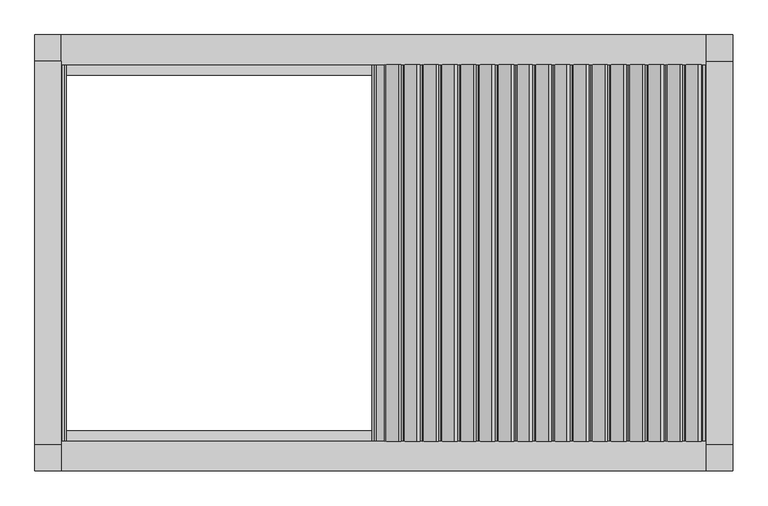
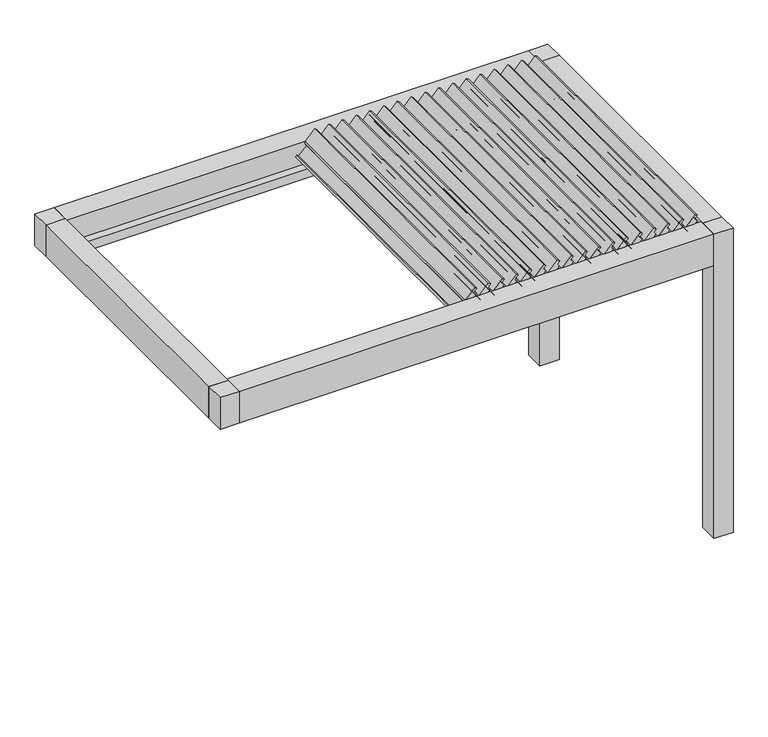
"""IFC4 building model written with IfcOpenShell, lengths in millimetres: proxy geometry, Renson_Camargue_Skye_Facade-Mounted_Patio covers : Renson_Camargue_Skye_Facade-Mounted_Patio covers."""

from ifc_helpers import new_model, si_unit, point, frame, frame_2d, origin, origin_with_axes, place, context, project, spatial, polyline, circle_curve, trimmed, segment, composite_curve, outline, extrude, source, transform, mapped, element, save


def generic_models_a303e51f(model_context):
    return source(origin(), model_context, "Body", "SweptSolid", [
        extrude(outline(composite_curve([segment(polyline([(2532.0835122, 1710.9276745), (2553.3547618, 1693.0789769), (2574.7237457, 1712.4891952), (2586.077577, 1696.2742437), (2504.561844, 1622.2305651)]), True, "CONTINUOUS"), segment(trimmed(circle_curve(frame_2d((2494.4763419, 1633.333837)), 15.0), [point((2504.561844, 1622.2305651))], [point((2485.8726953, 1621.0465563))], False, "CARTESIAN"), True, "CONTINUOUS"), segment(polyline([(2485.8726953, 1621.0465563), (2469.8777579, 1632.2463321), (2407.8391957, 1570.2077699), (2417.7863257, 1556.0017959), (2406.4649975, 1545.7182254), (2384.9376513, 1563.7818136), (2532.0835122, 1710.9276745)]), True, "CONTINUOUS")], self_intersect=False)), frame((0.0, -1080.0, 0.0), z_axis=(0.0, 1.0, 0.0), x_axis=(0.0, 0.0, 1.0)), (0.0, 0.0, 1.0), 2160.0),
        extrude(outline(composite_curve([segment(polyline([(2532.0835122, 1603.4168697), (2553.3547618, 1585.5681721), (2574.7237457, 1604.9783904), (2586.077577, 1588.7634389), (2504.561844, 1514.7197603)]), True, "CONTINUOUS"), segment(trimmed(circle_curve(frame_2d((2494.4763419, 1525.8230322)), 15.0), [point((2504.561844, 1514.7197603))], [point((2485.8726953, 1513.5357516))], False, "CARTESIAN"), True, "CONTINUOUS"), segment(polyline([(2485.8726953, 1513.5357516), (2469.8777579, 1524.7355273), (2407.8391957, 1462.6969652), (2417.7863257, 1448.4909912), (2406.4649975, 1438.2074206), (2384.9376513, 1456.2710088), (2532.0835122, 1603.4168697)]), True, "CONTINUOUS")], self_intersect=False)), frame((0.0, -1080.0, 0.0), z_axis=(0.0, 1.0, 0.0), x_axis=(0.0, 0.0, 1.0)), (0.0, 0.0, 1.0), 2160.0),
        extrude(outline(composite_curve([segment(polyline([(2532.0835122, 1495.906065), (2553.3547618, 1478.0573673), (2574.7237457, 1497.4675857), (2586.077577, 1481.2526342), (2504.561844, 1407.2089555)]), True, "CONTINUOUS"), segment(trimmed(circle_curve(frame_2d((2494.4763419, 1418.3122274)), 15.0), [point((2504.561844, 1407.2089555))], [point((2485.8726953, 1406.0249468))], False, "CARTESIAN"), True, "CONTINUOUS"), segment(polyline([(2485.8726953, 1406.0249468), (2469.8777579, 1417.2247226), (2407.8391957, 1355.1861604), (2417.7863257, 1340.9801864), (2406.4649975, 1330.6966158), (2384.9376513, 1348.760204), (2532.0835122, 1495.906065)]), True, "CONTINUOUS")], self_intersect=False)), frame((0.0, -1080.0, 0.0), z_axis=(0.0, 1.0, 0.0), x_axis=(0.0, 0.0, 1.0)), (0.0, 0.0, 1.0), 2160.0),
        extrude(outline(composite_curve([segment(polyline([(2532.0835122, 1388.3952602), (2553.3547618, 1370.5465625), (2574.7237457, 1389.9567809), (2586.077577, 1373.7418294), (2504.561844, 1299.6981507)]), True, "CONTINUOUS"), segment(trimmed(circle_curve(frame_2d((2494.4763419, 1310.8014227)), 15.0), [point((2504.561844, 1299.6981507))], [point((2485.8726953, 1298.514142))], False, "CARTESIAN"), True, "CONTINUOUS"), segment(polyline([(2485.8726953, 1298.514142), (2469.8777579, 1309.7139178), (2407.8391957, 1247.6753556), (2417.7863257, 1233.4693816), (2406.4649975, 1223.185811), (2384.9376513, 1241.2493993), (2532.0835122, 1388.3952602)]), True, "CONTINUOUS")], self_intersect=False)), frame((0.0, -1080.0, 0.0), z_axis=(0.0, 1.0, 0.0), x_axis=(0.0, 0.0, 1.0)), (0.0, 0.0, 1.0), 2160.0),
        extrude(outline(composite_curve([segment(polyline([(2532.0835122, 1280.8844554), (2553.3547618, 1263.0357577), (2574.7237457, 1282.4459761), (2586.077577, 1266.2310246), (2504.561844, 1192.187346)]), True, "CONTINUOUS"), segment(trimmed(circle_curve(frame_2d((2494.4763419, 1203.2906179)), 15.0), [point((2504.561844, 1192.187346))], [point((2485.8726953, 1191.0033372))], False, "CARTESIAN"), True, "CONTINUOUS"), segment(polyline([(2485.8726953, 1191.0033372), (2469.8777579, 1202.203113), (2407.8391957, 1140.1645508), (2417.7863257, 1125.9585768), (2406.4649975, 1115.6750063), (2384.9376513, 1133.7385945), (2532.0835122, 1280.8844554)]), True, "CONTINUOUS")], self_intersect=False)), frame((0.0, -1080.0, 0.0), z_axis=(0.0, 1.0, 0.0), x_axis=(0.0, 0.0, 1.0)), (0.0, 0.0, 1.0), 2160.0),
        extrude(outline(composite_curve([segment(polyline([(2532.0835122, 1173.3736506), (2553.3547618, 1155.5249529), (2574.7237457, 1174.9351713), (2586.077577, 1158.7202198), (2504.561844, 1084.6765412)]), True, "CONTINUOUS"), segment(trimmed(circle_curve(frame_2d((2494.4763419, 1095.7798131)), 15.0), [point((2504.561844, 1084.6765412))], [point((2485.8726953, 1083.4925324))], False, "CARTESIAN"), True, "CONTINUOUS"), segment(polyline([(2485.8726953, 1083.4925324), (2469.8777579, 1094.6923082), (2407.8391957, 1032.653746), (2417.7863257, 1018.447772), (2406.4649975, 1008.1642015), (2384.9376513, 1026.2277897), (2532.0835122, 1173.3736506)]), True, "CONTINUOUS")], self_intersect=False)), frame((0.0, -1080.0, 0.0), z_axis=(0.0, 1.0, 0.0), x_axis=(0.0, 0.0, 1.0)), (0.0, 0.0, 1.0), 2160.0),
        extrude(outline(composite_curve([segment(polyline([(2532.0835122, 1065.8628458), (2553.3547618, 1048.0141482), (2574.7237457, 1067.4243665), (2586.077577, 1051.209415), (2504.561844, 977.1657364)]), True, "CONTINUOUS"), segment(trimmed(circle_curve(frame_2d((2494.4763419, 988.2690083)), 15.0), [point((2504.561844, 977.1657364))], [point((2485.8726953, 975.9817276))], False, "CARTESIAN"), True, "CONTINUOUS"), segment(polyline([(2485.8726953, 975.9817276), (2469.8777579, 987.1815034), (2407.8391957, 925.1429413), (2417.7863257, 910.9369673), (2406.4649975, 900.6533967), (2384.9376513, 918.7169849), (2532.0835122, 1065.8628458)]), True, "CONTINUOUS")], self_intersect=False)), frame((0.0, -1080.0, 0.0), z_axis=(0.0, 1.0, 0.0), x_axis=(0.0, 0.0, 1.0)), (0.0, 0.0, 1.0), 2160.0),
        extrude(outline(composite_curve([segment(polyline([(2532.0835122, 958.3520411), (2553.3547618, 940.5033434), (2574.7237457, 959.9135617), (2586.077577, 943.6986103), (2504.561844, 869.6549316)]), True, "CONTINUOUS"), segment(trimmed(circle_curve(frame_2d((2494.4763419, 880.7582035)), 15.0), [point((2504.561844, 869.6549316))], [point((2485.8726953, 868.4709229))], False, "CARTESIAN"), True, "CONTINUOUS"), segment(polyline([(2485.8726953, 868.4709229), (2469.8777579, 879.6706987), (2407.8391957, 817.6321365), (2417.7863257, 803.4261625), (2406.4649975, 793.1425919), (2384.9376513, 811.2061801), (2532.0835122, 958.3520411)]), True, "CONTINUOUS")], self_intersect=False)), frame((0.0, -1080.0, 0.0), z_axis=(0.0, 1.0, 0.0), x_axis=(0.0, 0.0, 1.0)), (0.0, 0.0, 1.0), 2160.0),
        extrude(outline(composite_curve([segment(polyline([(2532.0835122, 850.8412363), (2553.3547618, 832.9925386), (2574.7237457, 852.402757), (2586.077577, 836.1878055), (2504.561844, 762.1441268)]), True, "CONTINUOUS"), segment(trimmed(circle_curve(frame_2d((2494.4763419, 773.2473987)), 15.0), [point((2504.561844, 762.1441268))], [point((2485.8726953, 760.9601181))], False, "CARTESIAN"), True, "CONTINUOUS"), segment(polyline([(2485.8726953, 760.9601181), (2469.8777579, 772.1598939), (2407.8391957, 710.1213317), (2417.7863257, 695.9153577), (2406.4649975, 685.6317871), (2384.9376513, 703.6953753), (2532.0835122, 850.8412363)]), True, "CONTINUOUS")], self_intersect=False)), frame((0.0, -1080.0, 0.0), z_axis=(0.0, 1.0, 0.0), x_axis=(0.0, 0.0, 1.0)), (0.0, 0.0, 1.0), 2160.0),
        extrude(outline(composite_curve([segment(polyline([(2532.0835122, 743.3304315), (2553.3547618, 725.4817338), (2574.7237457, 744.8919522), (2586.077577, 728.6770007), (2504.561844, 654.6333221)]), True, "CONTINUOUS"), segment(trimmed(circle_curve(frame_2d((2494.4763419, 665.736594)), 15.0), [point((2504.561844, 654.6333221))], [point((2485.8726953, 653.4493133))], False, "CARTESIAN"), True, "CONTINUOUS"), segment(polyline([(2485.8726953, 653.4493133), (2469.8777579, 664.6490891), (2407.8391957, 602.6105269), (2417.7863257, 588.4045529), (2406.4649975, 578.1209823), (2384.9376513, 596.1845706), (2532.0835122, 743.3304315)]), True, "CONTINUOUS")], self_intersect=False)), frame((0.0, -1080.0, 0.0), z_axis=(0.0, 1.0, 0.0), x_axis=(0.0, 0.0, 1.0)), (0.0, 0.0, 1.0), 2160.0),
        extrude(outline(composite_curve([segment(polyline([(2532.0835122, 635.8196267), (2553.3547618, 617.970929), (2574.7237457, 637.3811474), (2586.077577, 621.1661959), (2504.561844, 547.1225173)]), True, "CONTINUOUS"), segment(trimmed(circle_curve(frame_2d((2494.4763419, 558.2257892)), 15.0), [point((2504.561844, 547.1225173))], [point((2485.8726953, 545.9385085))], False, "CARTESIAN"), True, "CONTINUOUS"), segment(polyline([(2485.8726953, 545.9385085), (2469.8777579, 557.1382843), (2407.8391957, 495.0997221), (2417.7863257, 480.8937481), (2406.4649975, 470.6101776), (2384.9376513, 488.6737658), (2532.0835122, 635.8196267)]), True, "CONTINUOUS")], self_intersect=False)), frame((0.0, -1080.0, 0.0), z_axis=(0.0, 1.0, 0.0), x_axis=(0.0, 0.0, 1.0)), (0.0, 0.0, 1.0), 2160.0),
        extrude(outline(composite_curve([segment(polyline([(2532.0835122, 528.3088219), (2553.3547618, 510.4601243), (2574.7237457, 529.8703426), (2586.077577, 513.6553911), (2504.561844, 439.6117125)]), True, "CONTINUOUS"), segment(trimmed(circle_curve(frame_2d((2494.4763419, 450.7149844)), 15.0), [point((2504.561844, 439.6117125))], [point((2485.8726953, 438.4277037))], False, "CARTESIAN"), True, "CONTINUOUS"), segment(polyline([(2485.8726953, 438.4277037), (2469.8777579, 449.6274795), (2407.8391957, 387.5889173), (2417.7863257, 373.3829433), (2406.4649975, 363.0993728), (2384.9376513, 381.162961), (2532.0835122, 528.3088219)]), True, "CONTINUOUS")], self_intersect=False)), frame((0.0, -1080.0, 0.0), z_axis=(0.0, 1.0, 0.0), x_axis=(0.0, 0.0, 1.0)), (0.0, 0.0, 1.0), 2160.0),
        extrude(outline(composite_curve([segment(polyline([(2532.0835122, 420.7980171), (2553.3547618, 402.9493195), (2574.7237457, 422.3595378), (2586.077577, 406.1445863), (2504.561844, 332.1009077)]), True, "CONTINUOUS"), segment(trimmed(circle_curve(frame_2d((2494.4763419, 343.2041796)), 15.0), [point((2504.561844, 332.1009077))], [point((2485.8726953, 330.916899))], False, "CARTESIAN"), True, "CONTINUOUS"), segment(polyline([(2485.8726953, 330.916899), (2469.8777579, 342.1166747), (2407.8391957, 280.0781126), (2417.7863257, 265.8721386), (2406.4649975, 255.588568), (2384.9376513, 273.6521562), (2532.0835122, 420.7980171)]), True, "CONTINUOUS")], self_intersect=False)), frame((0.0, -1080.0, 0.0), z_axis=(0.0, 1.0, 0.0), x_axis=(0.0, 0.0, 1.0)), (0.0, 0.0, 1.0), 2160.0),
        extrude(outline(composite_curve([segment(polyline([(2532.0835122, 313.2872124), (2553.3547618, 295.4385147), (2574.7237457, 314.8487331), (2586.077577, 298.6337816), (2504.561844, 224.5901029)]), True, "CONTINUOUS"), segment(trimmed(circle_curve(frame_2d((2494.4763419, 235.6933748)), 15.0), [point((2504.561844, 224.5901029))], [point((2485.8726953, 223.4060942))], False, "CARTESIAN"), True, "CONTINUOUS"), segment(polyline([(2485.8726953, 223.4060942), (2469.8777579, 234.60587), (2407.8391957, 172.5673078), (2417.7863257, 158.3613338), (2406.4649975, 148.0777632), (2384.9376513, 166.1413514), (2532.0835122, 313.2872124)]), True, "CONTINUOUS")], self_intersect=False)), frame((0.0, -1080.0, 0.0), z_axis=(0.0, 1.0, 0.0), x_axis=(0.0, 0.0, 1.0)), (0.0, 0.0, 1.0), 2160.0),
        extrude(outline(composite_curve([segment(polyline([(2532.0835122, 205.7764076), (2553.3547618, 187.9277099), (2574.7237457, 207.3379283), (2586.077577, 191.1229768), (2504.561844, 117.0792981)]), True, "CONTINUOUS"), segment(trimmed(circle_curve(frame_2d((2494.4763419, 128.1825701)), 15.0), [point((2504.561844, 117.0792981))], [point((2485.8726953, 115.8952894))], False, "CARTESIAN"), True, "CONTINUOUS"), segment(polyline([(2485.8726953, 115.8952894), (2469.8777579, 127.0950652), (2407.8391957, 65.056503), (2417.7863257, 50.850529), (2406.4649975, 40.5669584), (2384.9376513, 58.6305467), (2532.0835122, 205.7764076)]), True, "CONTINUOUS")], self_intersect=False)), frame((0.0, -1080.0, 0.0), z_axis=(0.0, 1.0, 0.0), x_axis=(0.0, 0.0, 1.0)), (0.0, 0.0, 1.0), 2160.0),
        extrude(outline(composite_curve([segment(polyline([(2532.0835122, 1818.4384793), (2553.3547618, 1800.5897816), (2574.7237457, 1820.0), (2586.077577, 1803.7850485), (2504.561844, 1729.7413699)]), True, "CONTINUOUS"), segment(trimmed(circle_curve(frame_2d((2494.4763419, 1740.8446418)), 15.0), [point((2504.561844, 1729.7413699))], [point((2485.8726953, 1728.5573611))], False, "CARTESIAN"), True, "CONTINUOUS"), segment(polyline([(2485.8726953, 1728.5573611), (2469.8777579, 1739.7571369), (2407.8391957, 1677.7185747), (2417.7863257, 1663.5126007), (2406.4649975, 1653.2290302), (2384.9376513, 1671.2926184), (2532.0835122, 1818.4384793)]), True, "CONTINUOUS")], self_intersect=False)), frame((0.0, -1080.0, 0.0), z_axis=(0.0, 1.0, 0.0), x_axis=(0.0, 0.0, 1.0)), (0.0, 0.0, 1.0), 2160.0),
        extrude(outline(composite_curve([segment(polyline([(2532.0835122, 98.2656028), (2553.3547618, 80.4169051), (2574.7237457, 99.8271235), (2586.077577, 83.612172), (2504.561844, 9.5684934)]), True, "CONTINUOUS"), segment(trimmed(circle_curve(frame_2d((2494.4763419, 20.6717653)), 15.0), [point((2504.561844, 9.5684934))], [point((2485.8726953, 8.3844846))], False, "CARTESIAN"), True, "CONTINUOUS"), segment(polyline([(2485.8726953, 8.3844846), (2469.8777579, 19.5842604), (2407.8391957, -42.4543018), (2417.7863257, -56.6602758), (2406.4649975, -66.9438463), (2384.9376513, -48.8802581), (2532.0835122, 98.2656028)]), True, "CONTINUOUS")], self_intersect=False)), frame((0.0, -1080.0, 0.0), z_axis=(0.0, 1.0, 0.0), x_axis=(0.0, 0.0, 1.0)), (0.0, 0.0, 1.0), 2160.0),
        extrude(outline(polyline([(-1850.0, -1250.0), (-2000.0, -1250.0), (-2000.0, -1100.0), (-1850.0, -1100.0), (-1850.0, -1250.0)])), frame((0.0, 0.0, 2250.0), z_axis=(0.0, 0.0, 1.0), x_axis=(1.0, 0.0, 0.0)), (0.0, 0.0, 1.0), 260.0),
        extrude(outline(polyline([(2000.0, 1100.0), (1850.0, 1100.0), (1850.0, 1250.0), (2000.0, 1250.0), (2000.0, 1100.0)])), origin_with_axes(), (0.0, 0.0, 1.0), 2510.0),
        extrude(outline(polyline([(2000.0, -1250.0), (1850.0, -1250.0), (1850.0, -1100.0), (2000.0, -1100.0), (2000.0, -1250.0)])), origin_with_axes(), (0.0, 0.0, 1.0), 2510.0),
        extrude(outline(polyline([(2441.6559373, -1850.0), (2441.6559373, -1824.0), (2455.6555802, -1820.2487113), (2455.6555802, -1829.5940945), (2471.400763, -1845.0), (2479.2449277, -1845.0), (2479.6823598, -1850.0), (2441.6559373, -1850.0)])), frame((0.0, -1100.0, 0.0), z_axis=(0.0, 1.0, 0.0), x_axis=(0.0, 0.0, 1.0)), (0.0, 0.0, 1.0), 2200.0),
        extrude(outline(polyline([(-1850.0, 1100.0), (-1850.0, -1100.0), (-2000.0, -1100.0), (-2000.0, 1100.0), (-1850.0, 1100.0)])), frame((0.0, 0.0, 2250.0), z_axis=(0.0, 0.0, 1.0), x_axis=(1.0, 0.0, 0.0)), (0.0, 0.0, 1.0), 260.0),
        extrude(outline(polyline([(2510.0, 2000.0), (2510.0, 1850.0), (2479.6904658, 1850.0), (2479.2449277, 1845.0), (2471.400763, 1845.0), (2455.6555802, 1829.2544156), (2455.6555802, 1819.9090324), (2441.6559373, 1823.6603211), (2441.6559373, 1850.0), (2250.0, 1850.0), (2250.0, 2000.0), (2510.0, 2000.0)])), frame((0.0, -1100.0, 0.0), z_axis=(0.0, 1.0, 0.0), x_axis=(0.0, 0.0, 1.0)), (0.0, 0.0, 1.0), 2200.0),
        extrude(outline(polyline([(1080.0, 2510.0), (1250.0, 2510.0), (1250.0, 2250.0), (1020.0, 2250.0), (1020.0, 2322.0), (1080.0, 2322.0), (1080.0, 2510.0)])), frame((-1850.0, 0.0, 0.0), z_axis=(1.0, 0.0, 0.0), x_axis=(0.0, 1.0, 0.0)), (0.0, 0.0, 1.0), 3700.0),
        extrude(outline(polyline([(-1250.0, 2250.0), (-1250.0, 2510.0), (-1080.0, 2510.0), (-1080.0, 2322.0), (-1020.0, 2322.0), (-1020.0, 2250.0), (-1250.0, 2250.0)])), frame((-1850.0, 0.0, 0.0), z_axis=(1.0, 0.0, 0.0), x_axis=(0.0, 1.0, 0.0)), (0.0, 0.0, 1.0), 3700.0),
        extrude(outline(polyline([(2000.0, 1100.0), (1850.0, 1100.0), (1850.0, 1250.0), (2000.0, 1250.0), (2000.0, 1100.0)])), frame((0.0, 0.0, 2250.0), z_axis=(0.0, 0.0, 1.0), x_axis=(1.0, 0.0, 0.0)), (0.0, 0.0, 1.0), 260.0),
        extrude(outline(polyline([(-1850.0, 1100.0), (-2000.0, 1100.0), (-2000.0, 1250.0), (-1850.0, 1250.0), (-1850.0, 1100.0)])), frame((0.0, 0.0, 2250.0), z_axis=(0.0, 0.0, 1.0), x_axis=(1.0, 0.0, 0.0)), (0.0, 0.0, 1.0), 260.0),
    ])


if __name__ == "__main__":
    model = new_model("IFC4")
    model_context = context("Model", 3, world=origin())
    ifc_project = project(units=[si_unit("LENGTHUNIT", "METRE", prefix="MILLI")], contexts=[model_context])
    site = spatial("IfcSite", under=ifc_project)
    building = spatial("IfcBuilding", under=site)
    placement = place(None, origin())
    generic_models_shape = generic_models_a303e51f(model_context)
    element("IfcBuildingElementProxy", 1, Name="Renson_Camargue_Skye_Facade-Mounted_Patio covers : Renson_Camargue_Skye_Facade-Mounted_Patio covers", ObjectType="Renson_Camargue_Skye_Facade-Mounted_Patio covers : Renson_Camargue_Skye_Facade-Mounted_Patio covers", at=placement, inside=building, context=model_context, shape_type="MappedRepresentation", body=[
        mapped(generic_models_shape, transform((0.0, 0.0, 0.0), x_axis=(1.0, 0.0, 0.0), y_axis=(0.0, 1.0, 0.0), z_axis=(0.0, 0.0, 1.0))),
    ])
    save(model, "model.ifc")
